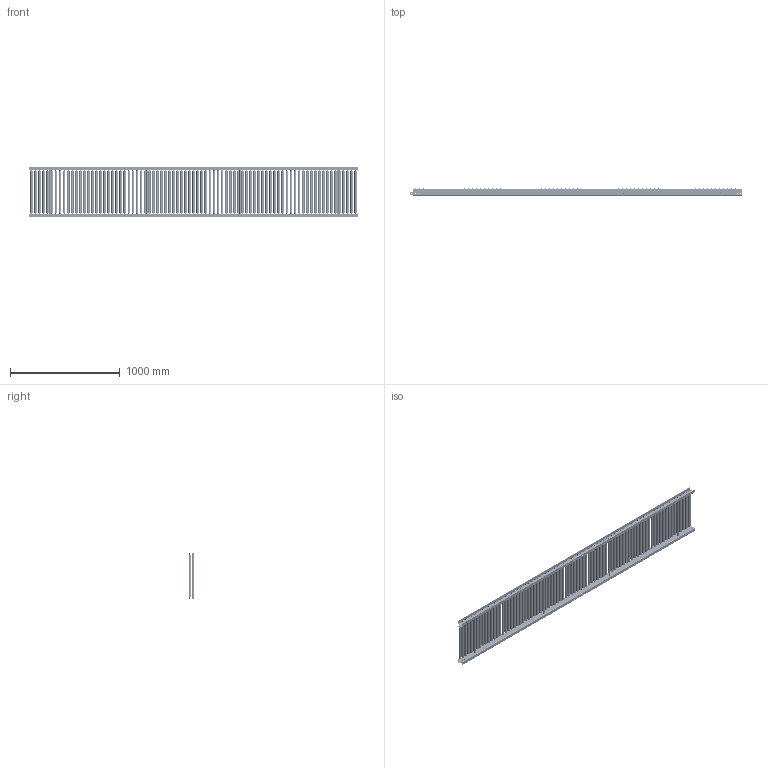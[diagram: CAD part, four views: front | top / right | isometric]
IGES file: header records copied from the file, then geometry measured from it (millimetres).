
Start section: SolidWorks IGES file using analytic representation for surfaces
Global section: file name: C:\Users\0656\Desktop\変換ツール\iges変換\S-2512P.igs; native system: SolidWorks 2023; preprocessor: SolidWorks 2023; author: 0656; date: 240226.152921; units: millimetre
Bounding box: 3031.5 x 63.7 x 460 mm (x, y, z)
Surface area: 6526310.3 mm2 (no closed solid volume)
Topology: 0 solids, 0 shells, 4076 faces, 57768 edges, 57768 vertices
Faces by surface type: bspline 2602, revolution 1474
